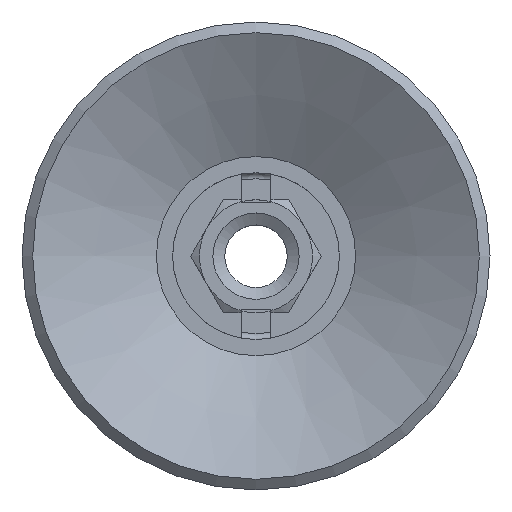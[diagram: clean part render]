
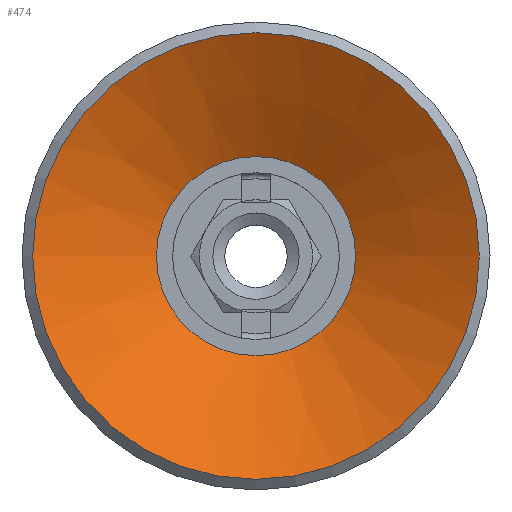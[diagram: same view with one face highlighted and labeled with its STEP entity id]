
A CAD part, top view. The second image highlights one B-rep face of the part: STEP entity #474.
In plain terms, the highlighted conical face has half-angle 60 degrees and reference radius 16.715 mm.
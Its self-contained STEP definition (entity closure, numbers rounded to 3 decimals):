
#474=ADVANCED_FACE('',(#898,#899),#900,.F.);
#898=FACE_OUTER_BOUND('',#1299,.T.);
#899=FACE_BOUND('',#1300,.T.);
#900=CONICAL_SURFACE('',#1301,16.715,1.047);
#1299=EDGE_LOOP('',(#2266));
#1300=EDGE_LOOP('',(#2267));
#1301=AXIS2_PLACEMENT_3D('',#2268,#2269,#2270);
#2266=ORIENTED_EDGE('',*,*,#2683,.T.);
#2267=ORIENTED_EDGE('',*,*,#2681,.F.);
#2268=CARTESIAN_POINT('',(0.0,12.0,0.0));
#2269=DIRECTION('',(0.0,-1.0,-0.0));
#2270=DIRECTION('',(0.0,0.0,-1.0));
#2681=EDGE_CURVE('',#3236,#3236,#3237,.T.);
#2683=EDGE_CURVE('',#3239,#3239,#3240,.T.);
#3236=VERTEX_POINT('',#4191);
#3237=CIRCLE('',#4192,16.715);
#3239=VERTEX_POINT('',#4194);
#3240=CIRCLE('',#4195,37.5);
#4191=CARTESIAN_POINT('',(0.0,12.0,-16.715));
#4192=AXIS2_PLACEMENT_3D('',#4536,#4537,#4538);
#4194=CARTESIAN_POINT('',(0.0,0.,-37.5));
#4195=AXIS2_PLACEMENT_3D('',#4539,#4540,#4541);
#4536=CARTESIAN_POINT('',(0.0,12.0,0.0));
#4537=DIRECTION('',(0.0,-1.0,0.0));
#4538=DIRECTION('',(0.0,0.0,-1.0));
#4539=CARTESIAN_POINT('',(0.0,0.,0.0));
#4540=DIRECTION('',(0.0,-1.0,0.0));
#4541=DIRECTION('',(0.0,0.0,-1.0));
